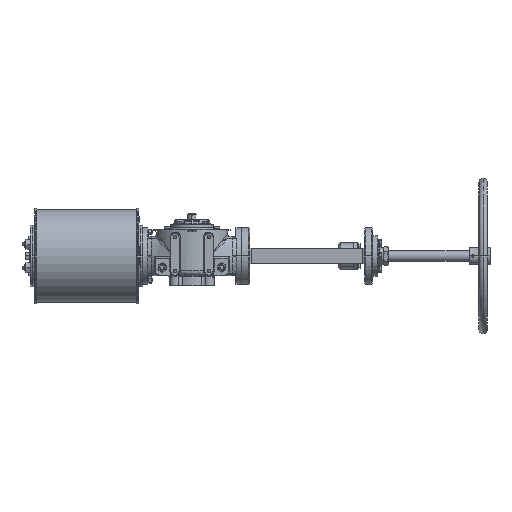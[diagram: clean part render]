
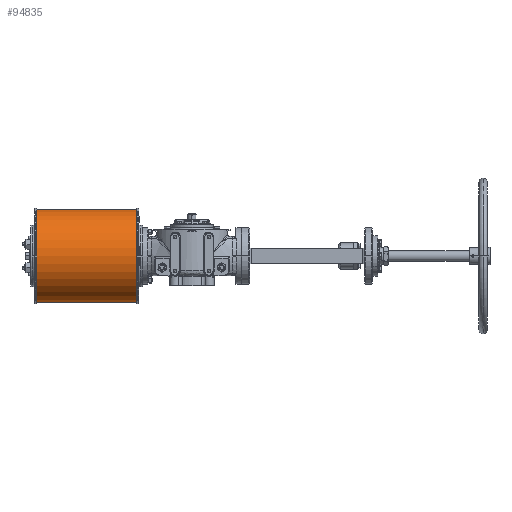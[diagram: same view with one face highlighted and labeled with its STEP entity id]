
A CAD part, front view. The second image highlights one B-rep face of the part: STEP entity #94835.
In plain terms, the highlighted cylindrical face has radius 136.5 mm (diameter 273 mm), a partial arc.
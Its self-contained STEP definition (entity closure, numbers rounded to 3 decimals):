
#4952 = AXIS2_PLACEMENT_3D ( 'NONE', #101742, #29292, #46222 ) ;
#5007 = VERTEX_POINT ( 'NONE', #32966 ) ;
#5761 = LINE ( 'NONE', #70340, #69527 ) ;
#13921 = ORIENTED_EDGE ( 'NONE', *, *, #41869, .F. ) ;
#17579 = CARTESIAN_POINT ( 'NONE',  ( -161.5, 22.5, -79. ) ) ;
#23684 = VECTOR ( 'NONE', #47601, 1000. ) ;
#23754 = LINE ( 'NONE', #24789, #23684 ) ;
#24789 = CARTESIAN_POINT ( 'NONE',  ( -456.5, 22.5, -79. ) ) ;
#27350 = CIRCLE ( 'NONE', #81411, 136.5 ) ;
#27843 = EDGE_CURVE ( 'NONE', #90035, #78254, #46040, .T. ) ;
#29292 = DIRECTION ( 'NONE',  ( 1., 0., 0. ) ) ;
#32966 = CARTESIAN_POINT ( 'NONE',  ( -456.5, 22.5, -79. ) ) ;
#41869 = EDGE_CURVE ( 'NONE', #80372, #78254, #5761, .T. ) ;
#42629 = AXIS2_PLACEMENT_3D ( 'NONE', #84951, #53716, #68584 ) ;
#46040 = CIRCLE ( 'NONE', #42629, 136.5 ) ;
#46222 = DIRECTION ( 'NONE',  ( 0., 0., 1. ) ) ;
#47601 = DIRECTION ( 'NONE',  ( 1., 0., 0. ) ) ;
#49569 = EDGE_CURVE ( 'NONE', #80372, #5007, #27350, .T. ) ;
#51060 = CARTESIAN_POINT ( 'NONE',  ( -161.5, 22.5, 194. ) ) ;
#53716 = DIRECTION ( 'NONE',  ( -1., 0., 0. ) ) ;
#53738 = DIRECTION ( 'NONE',  ( 0., 0., 1. ) ) ;
#56294 = ORIENTED_EDGE ( 'NONE', *, *, #27843, .T. ) ;
#56599 = EDGE_LOOP ( 'NONE', ( #101021, #70626, #56294, #13921 ) ) ;
#57041 = CARTESIAN_POINT ( 'NONE',  ( -456.5, 22.5, 194. ) ) ;
#68584 = DIRECTION ( 'NONE',  ( 0., 0., 1. ) ) ;
#69001 = CYLINDRICAL_SURFACE ( 'NONE', #4952, 136.5 ) ;
#69527 = VECTOR ( 'NONE', #102563, 1000. ) ;
#70340 = CARTESIAN_POINT ( 'NONE',  ( -456.5, 22.5, 194. ) ) ;
#70626 = ORIENTED_EDGE ( 'NONE', *, *, #95307, .T. ) ;
#78254 = VERTEX_POINT ( 'NONE', #51060 ) ;
#80372 = VERTEX_POINT ( 'NONE', #57041 ) ;
#81411 = AXIS2_PLACEMENT_3D ( 'NONE', #101332, #102892, #53738 ) ;
#84951 = CARTESIAN_POINT ( 'NONE',  ( -161.5, 22.5, 57.5 ) ) ;
#85895 = FACE_OUTER_BOUND ( 'NONE', #56599, .T. ) ;
#90035 = VERTEX_POINT ( 'NONE', #17579 ) ;
#94835 = ADVANCED_FACE ( 'NONE', ( #85895 ), #69001, .T. ) ;
#95307 = EDGE_CURVE ( 'NONE', #5007, #90035, #23754, .T. ) ;
#101021 = ORIENTED_EDGE ( 'NONE', *, *, #49569, .T. ) ;
#101332 = CARTESIAN_POINT ( 'NONE',  ( -456.5, 22.5, 57.5 ) ) ;
#101742 = CARTESIAN_POINT ( 'NONE',  ( -456.5, 22.5, 57.5 ) ) ;
#102563 = DIRECTION ( 'NONE',  ( 1., 0., 0. ) ) ;
#102892 = DIRECTION ( 'NONE',  ( 1., 0., 0. ) ) ;
